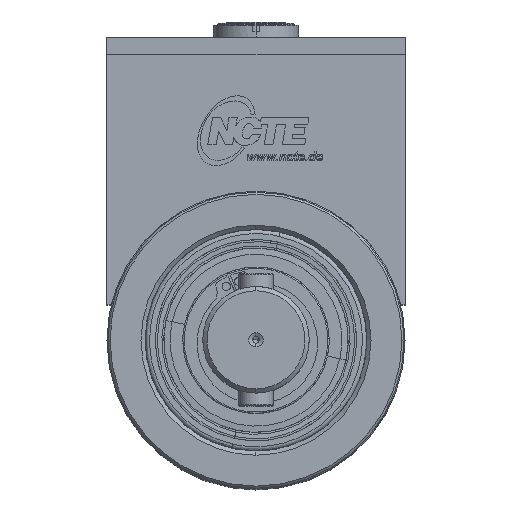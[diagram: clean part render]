
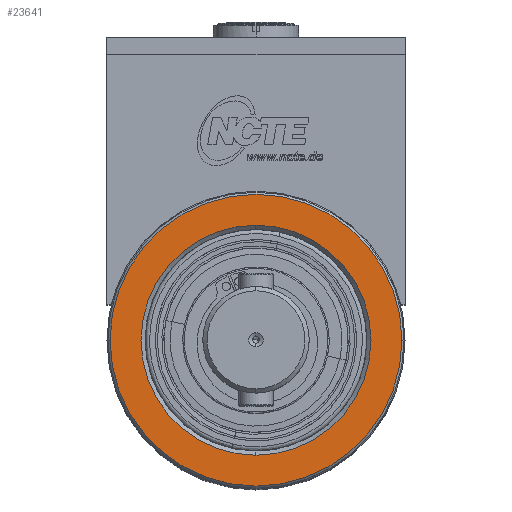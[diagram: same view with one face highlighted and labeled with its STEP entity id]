
A CAD part, top view. The second image highlights one B-rep face of the part: STEP entity #23641.
In plain terms, the highlighted planar face has unit normal (0, 0, -1).
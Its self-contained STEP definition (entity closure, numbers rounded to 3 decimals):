
#873 = AXIS2_PLACEMENT_3D ( 'NONE', #35682, #21725, #15948 ) ;
#1561 = CARTESIAN_POINT ( 'NONE',  ( 0., 27., 20. ) ) ;
#2065 = CARTESIAN_POINT ( 'NONE',  ( 34.25, 0., 20. ) ) ;
#3994 = FACE_OUTER_BOUND ( 'NONE', #33425, .T. ) ;
#4248 = CARTESIAN_POINT ( 'NONE',  ( 0., 0., 20. ) ) ;
#5106 = DIRECTION ( 'NONE',  ( 0., 0., -1. ) ) ;
#6477 = VERTEX_POINT ( 'NONE', #2065 ) ;
#6556 = CARTESIAN_POINT ( 'NONE',  ( 0., 0., 20. ) ) ;
#7210 = ORIENTED_EDGE ( 'NONE', *, *, #24289, .F. ) ;
#8176 = CARTESIAN_POINT ( 'NONE',  ( 0., 0., 20. ) ) ;
#8397 = CIRCLE ( 'NONE', #12083, 27. ) ;
#9147 = CIRCLE ( 'NONE', #15497, 27. ) ;
#9207 = DIRECTION ( 'NONE',  ( -1., 0., 0. ) ) ;
#9268 = CIRCLE ( 'NONE', #873, 34.25 ) ;
#10551 = DIRECTION ( 'NONE',  ( 0., -1., 0. ) ) ;
#11912 = DIRECTION ( 'NONE',  ( 0., 0., 1. ) ) ;
#12083 = AXIS2_PLACEMENT_3D ( 'NONE', #21829, #5106, #10551 ) ;
#13745 = EDGE_CURVE ( 'NONE', #21724, #20250, #8397, .T. ) ;
#13804 = EDGE_CURVE ( 'NONE', #31116, #6477, #9268, .T. ) ;
#15497 = AXIS2_PLACEMENT_3D ( 'NONE', #8176, #33153, #33515 ) ;
#15948 = DIRECTION ( 'NONE',  ( -1., 0., 0. ) ) ;
#16102 = EDGE_CURVE ( 'NONE', #6477, #31116, #28992, .T. ) ;
#17089 = AXIS2_PLACEMENT_3D ( 'NONE', #6556, #11912, #9207 ) ;
#18126 = DIRECTION ( 'NONE',  ( 0., 0., 1. ) ) ;
#18137 = CARTESIAN_POINT ( 'NONE',  ( 0., -27., 20. ) ) ;
#20250 = VERTEX_POINT ( 'NONE', #18137 ) ;
#21724 = VERTEX_POINT ( 'NONE', #1561 ) ;
#21725 = DIRECTION ( 'NONE',  ( 0., 0., 1. ) ) ;
#21829 = CARTESIAN_POINT ( 'NONE',  ( 0., 0., 20. ) ) ;
#23641 = ADVANCED_FACE ( 'F', ( #24497, #3994 ), #23750, .F. ) ;
#23750 = PLANE ( 'NONE',  #27392 ) ;
#24289 = EDGE_CURVE ( 'NONE', #20250, #21724, #9147, .T. ) ;
#24497 = FACE_BOUND ( 'NONE', #24872, .T. ) ;
#24872 = EDGE_LOOP ( 'NONE', ( #7210, #32149 ) ) ;
#25956 = CARTESIAN_POINT ( 'NONE',  ( -34.25, 0., 20. ) ) ;
#26298 = DIRECTION ( 'NONE',  ( 1., 0., 0. ) ) ;
#27009 = ORIENTED_EDGE ( 'NONE', *, *, #13804, .F. ) ;
#27392 = AXIS2_PLACEMENT_3D ( 'NONE', #4248, #18126, #26298 ) ;
#28992 = CIRCLE ( 'NONE', #17089, 34.25 ) ;
#29256 = ORIENTED_EDGE ( 'NONE', *, *, #16102, .F. ) ;
#31116 = VERTEX_POINT ( 'NONE', #25956 ) ;
#32149 = ORIENTED_EDGE ( 'NONE', *, *, #13745, .F. ) ;
#33153 = DIRECTION ( 'NONE',  ( 0., 0., -1. ) ) ;
#33425 = EDGE_LOOP ( 'NONE', ( #27009, #29256 ) ) ;
#33515 = DIRECTION ( 'NONE',  ( 0., -1., 0. ) ) ;
#35682 = CARTESIAN_POINT ( 'NONE',  ( 0., 0., 20. ) ) ;
